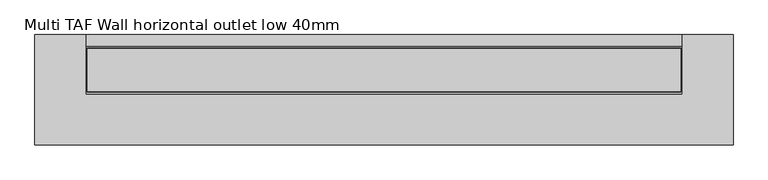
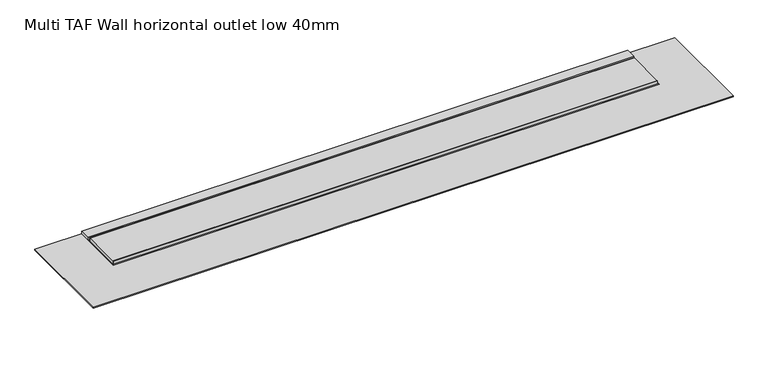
"""IFC4 building model written with IfcOpenShell, lengths in millimetres: sanitary terminal geometry, NLRS_PF_52_UN_Multi TAF Wall uitloop_Easydrain : Multi TAF Wall horizontal outlet low 40mm."""

from ifc_helpers import new_model, si_unit, frame, origin, place, context, project, spatial, polyline, circle_curve, outline, extrude, faceted_brep, source, transform, mapped, element, save
from ifc_brep_helpers import plane_surface, cylinder_surface, revolved_surface, advanced_brep


def multi_taf_wall_horizontal_outlet_low_40mm_08ca72b8(model_context):
    return source(origin(), model_context, "Body", "SolidModel", [
        advanced_brep(
        [(895.5, 0.0, -67.0), (889.5, 0.0, -67.0), (892.5, 0.0, -67.0), (895.5, 0.0, -78.5), (889.5, 0.0, -78.5), (907.5, 0.0, -86.0), (877.5, 0.0, -86.0), (892.5, 0.0, -86.0)],
        [
            (0, 1, circle_curve(frame((892.5, 0.0, -67.0), z_axis=(0.0, 0.0, 1.0), x_axis=(-1.0, 0.0, 0.0)), 3.0)),
            (1, 2),
            (2, 0),
            (1, 0, circle_curve(frame((892.5, 0.0, -67.0), z_axis=(0.0, 0.0, 1.0), x_axis=(-1.0, 0.0, 0.0)), 3.0)),
            (3, 4, circle_curve(frame((892.5, 0.0, -78.5), z_axis=(0.0, 0.0, 1.0), x_axis=(-1.0, 0.0, 0.0)), 3.0)),
            (4, 1),
            (0, 3),
            (4, 3, circle_curve(frame((892.5, 0.0, -78.5), z_axis=(0.0, 0.0, 1.0), x_axis=(-1.0, 0.0, 0.0)), 3.0)),
            (5, 6, circle_curve(frame((892.5, 0.0, -86.0), z_axis=(0.0, 0.0, 1.0), x_axis=(-1.0, 0.0, 0.0)), 15.0)),
            (6, 4),
            (3, 5),
            (6, 5, circle_curve(frame((892.5, 0.0, -86.0), z_axis=(0.0, 0.0, 1.0), x_axis=(-1.0, 0.0, 0.0)), 15.0)),
            (7, 6),
            (5, 7),
        ],
        [
            plane_surface(frame((892.5, 0.0, -67.0), z_axis=(0.0, 0.0, 1.0), x_axis=(-1.0, 0.0, 0.0))),
            cylinder_surface(frame((892.5, 0.0, -94.1782032), z_axis=(0.0, 0.0, -1.0), x_axis=(-1.0, 0.0, 0.0)), 3.0),
            revolved_surface(polyline([(889.5, 0.0, -78.5), (877.5, 0.0, -86.0)]), (892.5, 0.0, -94.1782032), (0.0, 0.0, -1.0)),
            plane_surface(frame((892.5, 0.0, -86.0), z_axis=(0.0, 0.0, -1.0), x_axis=(-1.0, 0.0, 0.0))),
        ],
        [
            (0, [[1, 2, 3]]),
            (0, [[4, -3, -2]]),
            (1, [[5, 6, -1, 7]]),
            (1, [[8, -7, -4, -6]]),
            (2, [[9, 10, -5, 11]]),
            (2, [[12, -11, -8, -10]]),
            (3, [[13, -9, 14]]),
            (3, [[-14, -12, -13]]),
        ],
    ),
        faceted_brep([(882.5, 10.0, -67.0), (902.5, 10.0, -67.0), (902.5, -10.0, -67.0), (882.5, -10.0, -67.0), (877.5, 15.0, -27.0), (877.5, -15.0, -27.0), (907.5, -15.0, -27.0), (907.5, 15.0, -27.0)], [[[0, 1, 2, 3]], [[4, 5, 6, 7]], [[5, 4, 0, 3]], [[6, 5, 3, 2]], [[7, 6, 2, 1]], [[4, 7, 1, 0]]]),
        advanced_brep(
        [(-189.5, 0.0, -67.0), (-195.5, 0.0, -67.0), (-192.5, 0.0, -67.0), (-189.5, 0.0, -78.5), (-195.5, 0.0, -78.5), (-177.5, 0.0, -86.0), (-207.5, 0.0, -86.0), (-192.5, 0.0, -86.0)],
        [
            (0, 1, circle_curve(frame((-192.5, 0.0, -67.0), z_axis=(0.0, 0.0, 1.0), x_axis=(-1.0, 0.0, 0.0)), 3.0)),
            (1, 2),
            (2, 0),
            (1, 0, circle_curve(frame((-192.5, 0.0, -67.0), z_axis=(0.0, 0.0, 1.0), x_axis=(-1.0, 0.0, 0.0)), 3.0)),
            (3, 4, circle_curve(frame((-192.5, 0.0, -78.5), z_axis=(0.0, 0.0, 1.0), x_axis=(-1.0, 0.0, 0.0)), 3.0)),
            (4, 1),
            (0, 3),
            (4, 3, circle_curve(frame((-192.5, 0.0, -78.5), z_axis=(0.0, 0.0, 1.0), x_axis=(-1.0, 0.0, 0.0)), 3.0)),
            (5, 6, circle_curve(frame((-192.5, 0.0, -86.0), z_axis=(0.0, 0.0, 1.0), x_axis=(-1.0, 0.0, 0.0)), 15.0)),
            (6, 4),
            (3, 5),
            (6, 5, circle_curve(frame((-192.5, 0.0, -86.0), z_axis=(0.0, 0.0, 1.0), x_axis=(-1.0, 0.0, 0.0)), 15.0)),
            (7, 6),
            (5, 7),
        ],
        [
            plane_surface(frame((-192.5, 0.0, -67.0), z_axis=(0.0, 0.0, 1.0), x_axis=(-1.0, 0.0, 0.0))),
            cylinder_surface(frame((-192.5, 0.0, -94.1782032), z_axis=(0.0, 0.0, -1.0), x_axis=(-1.0, 0.0, 0.0)), 3.0),
            revolved_surface(polyline([(-195.5, 0.0, -78.5), (-207.5, 0.0, -86.0)]), (-192.5, 0.0, -94.1782032), (0.0, 0.0, -1.0)),
            plane_surface(frame((-192.5, 0.0, -86.0), z_axis=(0.0, 0.0, -1.0), x_axis=(-1.0, 0.0, 0.0))),
        ],
        [
            (0, [[1, 2, 3]]),
            (0, [[4, -3, -2]]),
            (1, [[5, 6, -1, 7]]),
            (1, [[8, -7, -4, -6]]),
            (2, [[9, 10, -5, 11]]),
            (2, [[12, -11, -8, -10]]),
            (3, [[13, -9, 14]]),
            (3, [[-14, -12, -13]]),
        ],
    ),
        faceted_brep([(-202.5, 10.0, -67.0), (-182.5, 10.0, -67.0), (-182.5, -10.0, -67.0), (-202.5, -10.0, -67.0), (-207.5, 15.0, -27.0), (-207.5, -15.0, -27.0), (-177.5, -15.0, -27.0), (-177.5, 15.0, -27.0)], [[[0, 1, 2, 3]], [[4, 5, 6, 7]], [[5, 4, 0, 3]], [[6, 5, 3, 2]], [[7, 6, 2, 1]], [[4, 7, 1, 0]]]),
        extrude(outline(polyline([(930.5, 42.0), (930.5, -42.0), (-230.5, -42.0), (-230.5, 42.0), (930.5, 42.0)])), frame((0.0, 0.0, -7.0), z_axis=(0.0, 0.0, 1.0), x_axis=(1.0, 0.0, 0.0)), (0.0, 0.0, 1.0), 7.0),
        extrude(outline(polyline([(930.5, 43.0), (930.5, 42.0), (-230.5, 42.0), (-230.5, 43.0), (930.5, 43.0)])), frame((0.0, 0.0, -7.0), z_axis=(0.0, 0.0, 1.0), x_axis=(1.0, 0.0, 0.0)), (0.0, 0.0, 1.0), 7.0),
        extrude(outline(polyline([(930.5, -43.0), (-230.5, -43.0), (-230.5, -42.0), (930.5, -42.0), (930.5, -43.0)])), frame((0.0, 0.0, -7.0), z_axis=(0.0, 0.0, 1.0), x_axis=(1.0, 0.0, 0.0)), (0.0, 0.0, 1.0), 7.0),
        extrude(outline(polyline([(932.5, 69.0), (932.5, 47.0), (-232.5, 47.0), (-232.5, 69.0), (932.5, 69.0)])), frame((0.0, 0.0, -7.0), z_axis=(0.0, 0.0, 1.0), x_axis=(1.0, 0.0, 0.0)), (0.0, 0.0, 1.0), 7.0),
        extrude(outline(polyline([(1032.5, 69.0), (1032.5, -147.0), (-332.5, -147.0), (-332.5, 69.0), (1032.5, 69.0)]), holes=[polyline([(932.5, 47.0), (-232.5, 47.0), (-232.5, -47.0), (932.5, -47.0), (932.5, 47.0)])]), frame((0.0, 0.0, -8.0), z_axis=(0.0, 0.0, 1.0), x_axis=(1.0, 0.0, 0.0)), (0.0, 0.0, 1.0), 2.0),
        faceted_brep([(932.5, 47.0, -27.0), (-232.5, 47.0, -27.0), (-232.5, 47.0, -9.0), (932.5, 47.0, -9.0), (-232.5, -47.0, -27.0), (932.5, -47.0, -27.0), (932.5, -47.0, -9.0), (-232.5, -47.0, -9.0), (950.0, 64.5, -7.0), (-250.0, 64.5, -7.0), (-250.0, -81.5, -7.0), (950.0, -81.5, -7.0), (950.0, 64.5, -9.0), (950.0, -81.5, -9.0), (-250.0, -81.5, -9.0), (-250.0, 64.5, -9.0)], [[[0, 1, 2, 3]], [[4, 5, 6, 7]], [[1, 0, 5, 4]], [[5, 0, 3, 6]], [[8, 9, 10, 11]], [[1, 4, 7, 2]], [[12, 13, 14, 15], [3, 2, 7, 6]], [[9, 8, 12, 15]], [[10, 9, 15, 14]], [[11, 10, 14, 13]], [[8, 11, 13, 12]]]),
    ])


if __name__ == "__main__":
    model = new_model("IFC4")
    model_context = context("Model", 3, world=origin())
    ifc_project = project(units=[si_unit("LENGTHUNIT", "METRE", prefix="MILLI")], contexts=[model_context])
    site = spatial("IfcSite", under=ifc_project)
    building = spatial("IfcBuilding", under=site)
    placement = place(None, origin())
    multi_taf_wall_horizontal_outlet_low_40mm_shape = multi_taf_wall_horizontal_outlet_low_40mm_08ca72b8(model_context)
    element("IfcSanitaryTerminal", 1, ObjectType="NLRS_PF_52_UN_Multi TAF Wall uitloop_Easydrain : Multi TAF Wall horizontal outlet low 40mm", at=placement, inside=building, context=model_context, shape_type="MappedRepresentation", body=[
        mapped(multi_taf_wall_horizontal_outlet_low_40mm_shape, transform((0.0, 0.0, 0.0), x_axis=(1.0, 0.0, 0.0), y_axis=(0.0, 1.0, 0.0), z_axis=(0.0, 0.0, 1.0))),
    ])
    save(model, "model.ifc")
